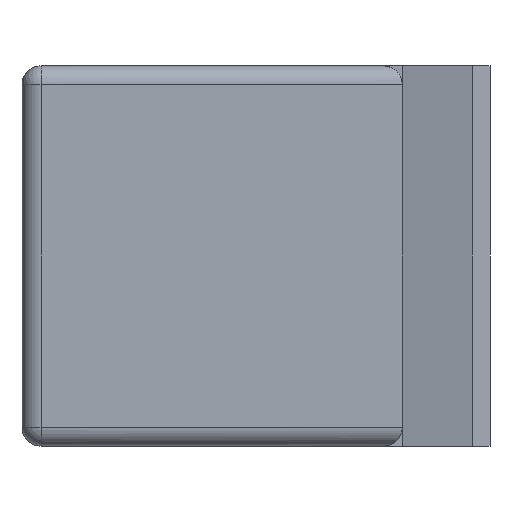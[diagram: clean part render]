
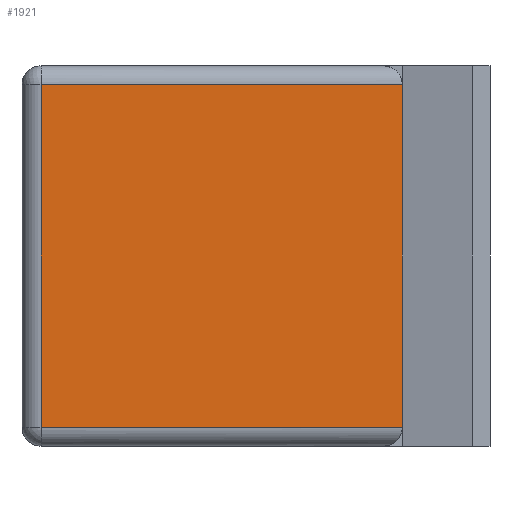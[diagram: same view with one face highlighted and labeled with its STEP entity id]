
A CAD part, left-side view. The second image highlights one B-rep face of the part: STEP entity #1921.
In plain terms, the highlighted planar face has unit normal (-1, 0, 0).
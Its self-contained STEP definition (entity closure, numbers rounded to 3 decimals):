
#41=PLANE('',#2061);
#143=FACE_OUTER_BOUND('',#248,.T.);
#248=EDGE_LOOP('',(#1578,#1579,#1580,#1581));
#492=LINE('',#3059,#739);
#493=LINE('',#3069,#740);
#496=LINE('',#3077,#743);
#500=LINE('',#3091,#747);
#739=VECTOR('',#2410,10.);
#740=VECTOR('',#2423,10.);
#743=VECTOR('',#2434,10.);
#747=VECTOR('',#2452,10.);
#1011=VERTEX_POINT('',#3054);
#1012=VERTEX_POINT('',#3058);
#1013=VERTEX_POINT('',#3062);
#1015=VERTEX_POINT('',#3068);
#1220=EDGE_CURVE('',#1012,#1011,#492,.T.);
#1225=EDGE_CURVE('',#1013,#1015,#493,.T.);
#1230=EDGE_CURVE('',#1011,#1013,#496,.T.);
#1237=EDGE_CURVE('',#1015,#1012,#500,.T.);
#1578=ORIENTED_EDGE('',*,*,#1225,.F.);
#1579=ORIENTED_EDGE('',*,*,#1230,.F.);
#1580=ORIENTED_EDGE('',*,*,#1220,.F.);
#1581=ORIENTED_EDGE('',*,*,#1237,.F.);
#1921=ADVANCED_FACE('',(#143),#41,.T.);
#2061=AXIS2_PLACEMENT_3D('',#3090,#2450,#2451);
#2410=DIRECTION('',(0.,1.,0.));
#2423=DIRECTION('',(0.,-1.,0.));
#2434=DIRECTION('',(0.,0.,1.));
#2450=DIRECTION('center_axis',(-1.,0.,0.));
#2451=DIRECTION('ref_axis',(0.,0.,1.));
#2452=DIRECTION('',(0.,0.,-1.));
#3054=CARTESIAN_POINT('',(-15.,9.5,0.5));
#3058=CARTESIAN_POINT('',(-15.,0.,0.5));
#3059=CARTESIAN_POINT('',(-15.,0.924,0.5));
#3062=CARTESIAN_POINT('',(-15.,9.5,9.5));
#3068=CARTESIAN_POINT('',(-15.,0.,9.5));
#3069=CARTESIAN_POINT('',(-15.,0.924,9.5));
#3077=CARTESIAN_POINT('',(-15.,9.5,2.5));
#3090=CARTESIAN_POINT('Origin',(-15.,1.5,5.));
#3091=CARTESIAN_POINT('',(-15.,0.,2.5));
